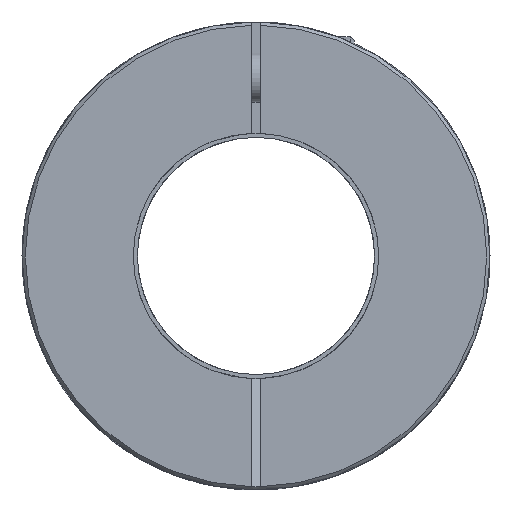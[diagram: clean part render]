
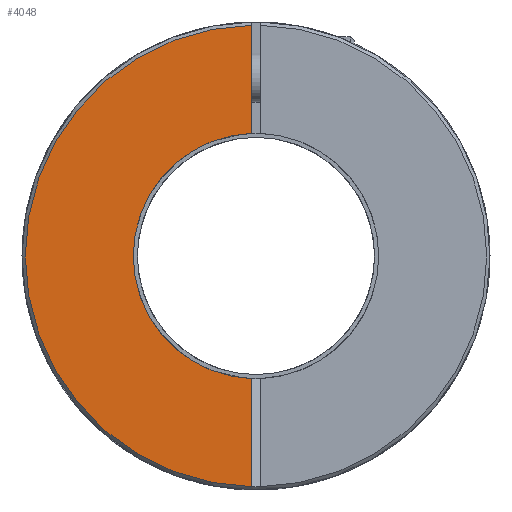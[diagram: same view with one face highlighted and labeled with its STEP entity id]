
A CAD part, front view. The second image highlights one B-rep face of the part: STEP entity #4048.
In plain terms, the highlighted planar face has unit normal (0, -1, 0).
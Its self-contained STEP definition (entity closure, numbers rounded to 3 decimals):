
#1=DIRECTION('',(0.,0.,-1.));
#2=VECTOR('',#1,13.204);
#3=CARTESIAN_POINT('',(-0.5,-65.,28.196));
#4=LINE('',#3,#2);
#5=CARTESIAN_POINT('',(0.,-65.,0.));
#6=DIRECTION('',(0.,1.,0.));
#7=DIRECTION('',(-1.,0.,0.));
#8=AXIS2_PLACEMENT_3D('',#5,#6,#7);
#10=CARTESIAN_POINT('',(0.,-65.,0.));
#11=DIRECTION('',(0.,1.,0.));
#12=DIRECTION('',(-0.033,0.,-0.999));
#13=AXIS2_PLACEMENT_3D('',#10,#11,#12);
#15=DIRECTION('',(0.,0.,-1.));
#16=VECTOR('',#15,13.204);
#17=CARTESIAN_POINT('',(-0.5,-65.,-14.992));
#18=LINE('',#17,#16);
#3459=CARTESIAN_POINT('',(0.,-65.,0.));
#3460=DIRECTION('',(0.,-1.,0.));
#3461=DIRECTION('',(-0.018,0.,1.));
#3462=AXIS2_PLACEMENT_3D('',#3459,#3460,#3461);
#3666=CARTESIAN_POINT('',(-15.,-65.,0.));
#3667=VERTEX_POINT('',#3666);
#3794=CARTESIAN_POINT('',(-0.5,-65.,28.196));
#3795=CARTESIAN_POINT('',(-0.5,-65.,14.992));
#3796=VERTEX_POINT('',#3794);
#3797=VERTEX_POINT('',#3795);
#3798=CARTESIAN_POINT('',(-0.5,-65.,-14.992));
#3799=CARTESIAN_POINT('',(-0.5,-65.,-28.196));
#3800=VERTEX_POINT('',#3798);
#3801=VERTEX_POINT('',#3799);
#4031=CARTESIAN_POINT('',(0.,-65.,0.));
#4032=DIRECTION('',(0.,1.,0.));
#4033=DIRECTION('',(1.,0.,0.));
#4034=AXIS2_PLACEMENT_3D('',#4031,#4032,#4033);
#4035=PLANE('',#4034);
#4037=ORIENTED_EDGE('',*,*,#4036,.T.);
#4039=ORIENTED_EDGE('',*,*,#4038,.F.);
#4041=ORIENTED_EDGE('',*,*,#4040,.F.);
#4043=ORIENTED_EDGE('',*,*,#4042,.T.);
#4045=ORIENTED_EDGE('',*,*,#4044,.F.);
#4046=EDGE_LOOP('',(#4037,#4039,#4041,#4043,#4045));
#4047=FACE_OUTER_BOUND('',#4046,.F.);
#4048=ADVANCED_FACE('',(#4047),#4035,.F.);
#9=CIRCLE('',#8,15.);
#14=CIRCLE('',#13,15.);
#3463=CIRCLE('',#3462,28.2);
#4036=EDGE_CURVE('',#3796,#3797,#4,.T.);
#4038=EDGE_CURVE('',#3667,#3797,#9,.T.);
#4040=EDGE_CURVE('',#3800,#3667,#14,.T.);
#4042=EDGE_CURVE('',#3800,#3801,#18,.T.);
#4044=EDGE_CURVE('',#3796,#3801,#3463,.T.);
